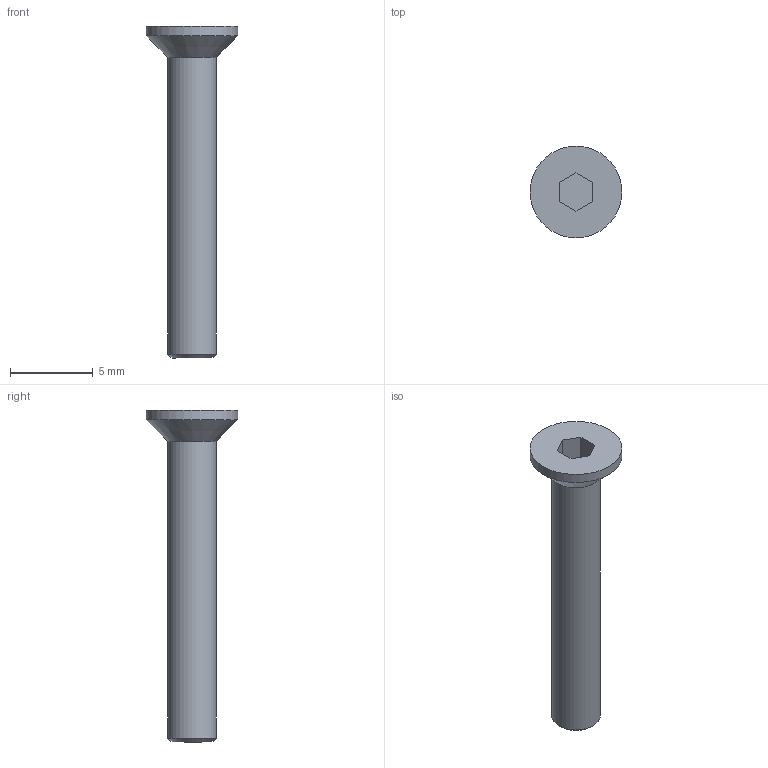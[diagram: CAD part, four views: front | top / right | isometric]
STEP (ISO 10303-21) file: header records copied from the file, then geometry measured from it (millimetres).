
FILE_DESCRIPTION(/* description */ (''),/* implementation_level */ '2;1');
FILE_NAME(/* name */ 'M3 Countersunk Bolt - ISO 10642 - A2 Stainless Steel.step',/* time_stamp */ '2024-07-05T09:53:31+03:00',/* author */ (''),/* organization */ (''),/* preprocessor_version */ 'ST-DEVELOPER v20',/* originating_system */ 'Autodesk Translation Framework v13.14.0.145',/* authorisation */ '');
FILE_SCHEMA (('AUTOMOTIVE_DESIGN { 1 0 10303 214 3 1 1 }'));
Length unit declared in the file: millimetre
Products named in the file (2): M3 Countersunk Bolt - ISO 10642 - A2 Stainless Steel; Hexagon Socket Countersunk Head Screw ISO 10642 - M3 x 20 Stainless S
teel A2 Plain v1
Assembly tree (1 placements, depth 2):
  M3 Countersunk Bolt - ISO 10642 - A2 Stainless Steel
    Hexagon Socket Countersunk Head Screw ISO 10642 - M3 x 20 Stainless S
teel A2 Plain v1
Bounding box: 5.54 x 5.54 x 20 mm (x, y, z)
Volume: 147.1 mm3; surface area: 245.9 mm2
Topology: 1 solids, 1 shells, 14 faces, 29 edges, 18 vertices
Faces by surface type: plane 9, cone 2, cylinder 2, torus 1
Full cylindrical faces by diameter (mm): 2.927 x1, 5.54 x1
Entity records: 428 total; most frequent: DIRECTION 70, CARTESIAN_POINT 64, ORIENTED_EDGE 58, EDGE_CURVE 29, AXIS2_PLACEMENT_3D 24, LINE 22, VECTOR 22, VERTEX_POINT 18
